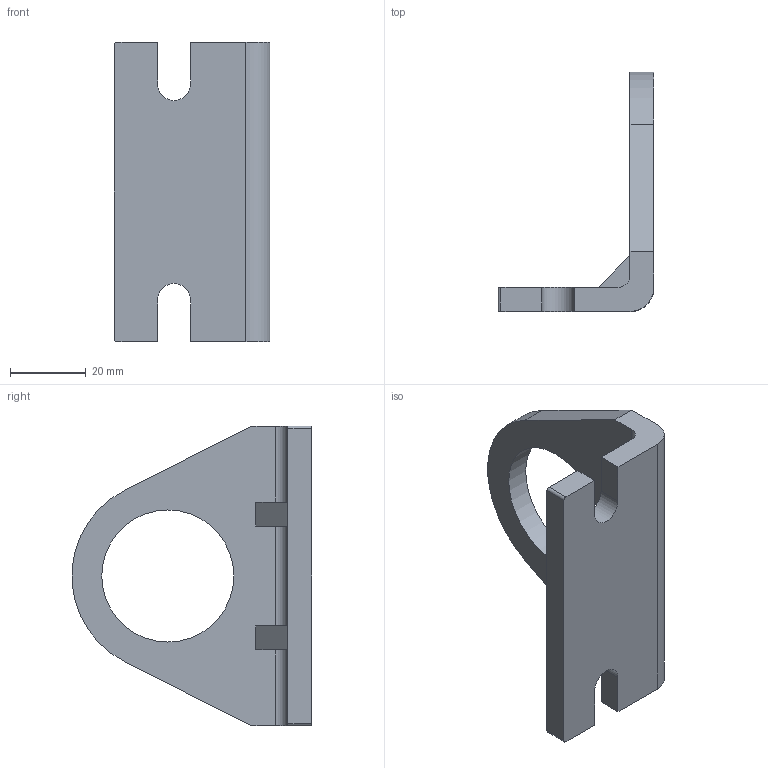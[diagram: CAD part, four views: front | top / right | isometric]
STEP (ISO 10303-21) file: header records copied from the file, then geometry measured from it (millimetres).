
FILE_DESCRIPTION((''),'2;1');
FILE_NAME('M117009','2019-07-15T14:42:47',('MeFernandez'),('ASCO Numatics'),'CREO PARAMETRIC BY PTC INC, 2018190','CREO PARAMETRIC BY PTC INC, 2018190','');
FILE_SCHEMA(('AUTOMOTIVE_DESIGN { 1 0 10303 214 1 1 1 1 }'));
Length unit declared in the file: inch
Products named in the file (1): M117009
Bounding box: 41.27 x 63.41 x 79.38 mm (x, y, z)
Volume: 34006.7 mm3; surface area: 13513.2 mm2
Topology: 1 solids, 1 shells, 32 faces, 90 edges, 60 vertices
Faces by surface type: plane 21, cylinder 11
Entity records: 1411 total; most frequent: CARTESIAN_POINT 184, ORIENTED_EDGE 180, DIRECTION 176, PRESENTATION_STYLE_ASSIGNMENT 91, STYLED_ITEM 91, CURVE_STYLE 90, EDGE_CURVE 90, VECTOR 68
